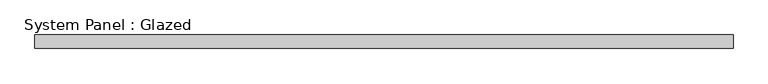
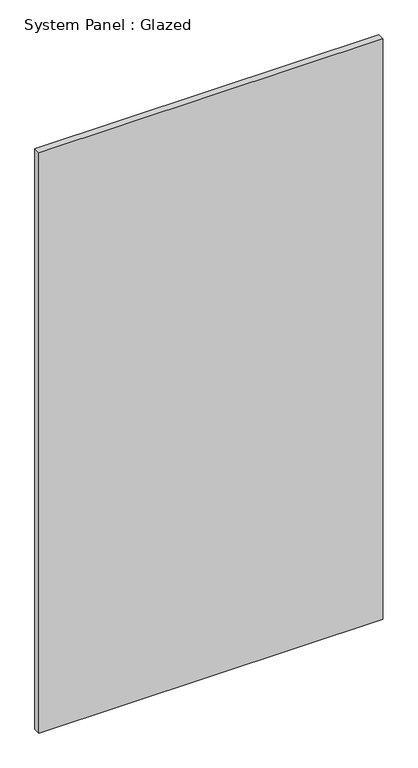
"""IFC4 building model written with IfcOpenShell, lengths in millimetres: plate geometry, System Panel : Glazed."""

from ifc_helpers import new_model, si_unit, origin, origin_with_axes, place, context, project, spatial, polyline, outline, extrude, source, transform, mapped, element, save


def system_panel_glazed_f79f5f4b(model_context):
    return source(origin(), model_context, "Body", "SweptSolid", [
        extrude(outline(polyline([(656.8722222, 19.05), (-656.8722222, 19.05), (-656.8722222, 44.45), (656.8722222, 44.45), (656.8722222, 19.05)])), origin_with_axes(), (0.0, 0.0, 1.0), 2343.15),
    ])


if __name__ == "__main__":
    model = new_model("IFC4")
    model_context = context("Model", 3, world=origin())
    ifc_project = project(units=[si_unit("LENGTHUNIT", "METRE", prefix="MILLI")], contexts=[model_context])
    site = spatial("IfcSite", under=ifc_project)
    building = spatial("IfcBuilding", under=site)
    placement = place(None, origin())
    system_panel_glazed_shape = system_panel_glazed_f79f5f4b(model_context)
    element("IfcPlate", 1, ObjectType="System Panel : Glazed", at=placement, inside=building, context=model_context, shape_type="MappedRepresentation", body=[
        mapped(system_panel_glazed_shape, transform((0.0, 0.0, 0.0), x_axis=(1.0, 0.0, 0.0), y_axis=(0.0, 1.0, 0.0), z_axis=(0.0, 0.0, 1.0))),
    ])
    save(model, "model.ifc")
